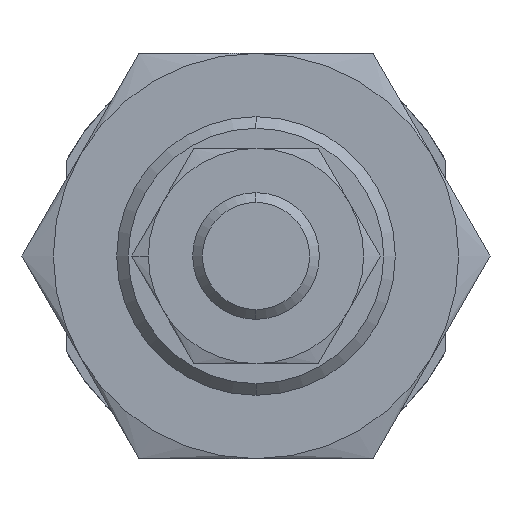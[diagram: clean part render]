
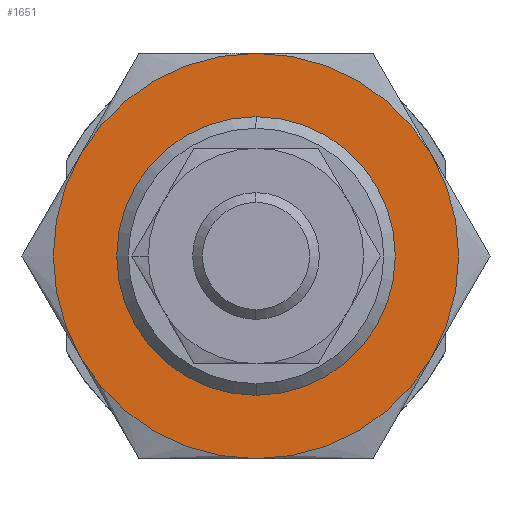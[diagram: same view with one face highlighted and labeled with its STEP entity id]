
A CAD part, left-side view. The second image highlights one B-rep face of the part: STEP entity #1651.
In plain terms, the highlighted planar face has unit normal (-1, 0, 0).
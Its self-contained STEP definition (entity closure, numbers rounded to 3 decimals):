
#25 = VERTEX_POINT ( 'NONE', #2731 ) ;
#41 = CARTESIAN_POINT ( 'NONE',  ( -17.5, -13.856, -8. ) ) ;
#100 = EDGE_CURVE ( 'NONE', #3830, #1023, #3767, .T. ) ;
#113 = DIRECTION ( 'NONE',  ( 1., 0., 0. ) ) ;
#236 = DIRECTION ( 'NONE',  ( 1., 0., 0. ) ) ;
#237 = CIRCLE ( 'NONE', #1338, 11. ) ;
#270 = ORIENTED_EDGE ( 'NONE', *, *, #968, .F. ) ;
#280 = FACE_OUTER_BOUND ( 'NONE', #3653, .T. ) ;
#297 = CARTESIAN_POINT ( 'NONE',  ( -17.5, 0., 0. ) ) ;
#319 = DIRECTION ( 'NONE',  ( 1., 0., 0. ) ) ;
#445 = AXIS2_PLACEMENT_3D ( 'NONE', #2948, #1595, #3613 ) ;
#555 = DIRECTION ( 'NONE',  ( 1., 0., 0. ) ) ;
#678 = AXIS2_PLACEMENT_3D ( 'NONE', #3505, #555, #3186 ) ;
#722 = VERTEX_POINT ( 'NONE', #3531 ) ;
#761 = CARTESIAN_POINT ( 'NONE',  ( -17.5, 0., 0. ) ) ;
#829 = CIRCLE ( 'NONE', #3030, 16. ) ;
#968 = EDGE_CURVE ( 'NONE', #1023, #3799, #1998, .T. ) ;
#1023 = VERTEX_POINT ( 'NONE', #1261 ) ;
#1025 = CARTESIAN_POINT ( 'NONE',  ( -17.5, 13.856, -8. ) ) ;
#1132 = VERTEX_POINT ( 'NONE', #2317 ) ;
#1163 = ORIENTED_EDGE ( 'NONE', *, *, #1285, .F. ) ;
#1201 = CARTESIAN_POINT ( 'NONE',  ( -17.5, 0., 0. ) ) ;
#1203 = DIRECTION ( 'NONE',  ( 0., 0., -1. ) ) ;
#1261 = CARTESIAN_POINT ( 'NONE',  ( -17.5, 0., -16. ) ) ;
#1285 = EDGE_CURVE ( 'NONE', #3799, #1132, #829, .T. ) ;
#1331 = EDGE_CURVE ( 'NONE', #1132, #722, #3237, .T. ) ;
#1338 = AXIS2_PLACEMENT_3D ( 'NONE', #1908, #236, #3804 ) ;
#1446 = CARTESIAN_POINT ( 'NONE',  ( -17.5, 0., 0. ) ) ;
#1470 = EDGE_CURVE ( 'NONE', #3651, #25, #237, .T. ) ;
#1572 = AXIS2_PLACEMENT_3D ( 'NONE', #761, #2086, #3760 ) ;
#1595 = DIRECTION ( 'NONE',  ( -1., 0., 0. ) ) ;
#1651 = ADVANCED_FACE ( 'NONE', ( #280, #3990 ), #1968, .T. ) ;
#1668 = ORIENTED_EDGE ( 'NONE', *, *, #3746, .F. ) ;
#1767 = CARTESIAN_POINT ( 'NONE',  ( -17.5, 0., 0. ) ) ;
#1768 = VERTEX_POINT ( 'NONE', #3659 ) ;
#1784 = EDGE_LOOP ( 'NONE', ( #4229, #4256 ) ) ;
#1815 = DIRECTION ( 'NONE',  ( 1., 0., 0. ) ) ;
#1834 = CIRCLE ( 'NONE', #4240, 16. ) ;
#1900 = CARTESIAN_POINT ( 'NONE',  ( -17.5, 0., 0. ) ) ;
#1908 = CARTESIAN_POINT ( 'NONE',  ( -17.5, 0., 0. ) ) ;
#1913 = AXIS2_PLACEMENT_3D ( 'NONE', #1900, #2889, #1203 ) ;
#1968 = PLANE ( 'NONE',  #445 ) ;
#1989 = CIRCLE ( 'NONE', #1572, 11. ) ;
#1998 = CIRCLE ( 'NONE', #678, 16. ) ;
#2055 = EDGE_CURVE ( 'NONE', #1768, #3830, #2268, .T. ) ;
#2086 = DIRECTION ( 'NONE',  ( 1., 0., 0. ) ) ;
#2091 = CARTESIAN_POINT ( 'NONE',  ( -17.5, 0., -11. ) ) ;
#2268 = CIRCLE ( 'NONE', #2607, 16. ) ;
#2317 = CARTESIAN_POINT ( 'NONE',  ( -17.5, 13.856, 8. ) ) ;
#2402 = ORIENTED_EDGE ( 'NONE', *, *, #100, .F. ) ;
#2607 = AXIS2_PLACEMENT_3D ( 'NONE', #1201, #1815, #3187 ) ;
#2731 = CARTESIAN_POINT ( 'NONE',  ( -17.5, 0., 11. ) ) ;
#2835 = ORIENTED_EDGE ( 'NONE', *, *, #2055, .F. ) ;
#2889 = DIRECTION ( 'NONE',  ( 1., 0., 0. ) ) ;
#2948 = CARTESIAN_POINT ( 'NONE',  ( -17.5, 16., 0. ) ) ;
#3018 = DIRECTION ( 'NONE',  ( 0., 0., -1. ) ) ;
#3030 = AXIS2_PLACEMENT_3D ( 'NONE', #297, #319, #3018 ) ;
#3077 = DIRECTION ( 'NONE',  ( 0., 0., -1. ) ) ;
#3115 = EDGE_CURVE ( 'NONE', #25, #3651, #1989, .T. ) ;
#3186 = DIRECTION ( 'NONE',  ( 0., 0., -1. ) ) ;
#3187 = DIRECTION ( 'NONE',  ( 0., 0., -1. ) ) ;
#3237 = CIRCLE ( 'NONE', #4148, 16. ) ;
#3405 = DIRECTION ( 'NONE',  ( 1., 0., 0. ) ) ;
#3505 = CARTESIAN_POINT ( 'NONE',  ( -17.5, 0., 0. ) ) ;
#3531 = CARTESIAN_POINT ( 'NONE',  ( -17.5, 0., 16. ) ) ;
#3612 = ORIENTED_EDGE ( 'NONE', *, *, #1331, .F. ) ;
#3613 = DIRECTION ( 'NONE',  ( 0., 0., 1. ) ) ;
#3651 = VERTEX_POINT ( 'NONE', #2091 ) ;
#3653 = EDGE_LOOP ( 'NONE', ( #1163, #270, #2402, #2835, #1668, #3612 ) ) ;
#3659 = CARTESIAN_POINT ( 'NONE',  ( -17.5, -13.856, 8. ) ) ;
#3730 = DIRECTION ( 'NONE',  ( 0., 0., -1. ) ) ;
#3746 = EDGE_CURVE ( 'NONE', #722, #1768, #1834, .T. ) ;
#3760 = DIRECTION ( 'NONE',  ( 0., 0., -1. ) ) ;
#3767 = CIRCLE ( 'NONE', #1913, 16. ) ;
#3799 = VERTEX_POINT ( 'NONE', #1025 ) ;
#3804 = DIRECTION ( 'NONE',  ( 0., 0., -1. ) ) ;
#3830 = VERTEX_POINT ( 'NONE', #41 ) ;
#3990 = FACE_BOUND ( 'NONE', #1784, .T. ) ;
#4148 = AXIS2_PLACEMENT_3D ( 'NONE', #1446, #3405, #3730 ) ;
#4229 = ORIENTED_EDGE ( 'NONE', *, *, #3115, .T. ) ;
#4240 = AXIS2_PLACEMENT_3D ( 'NONE', #1767, #113, #3077 ) ;
#4256 = ORIENTED_EDGE ( 'NONE', *, *, #1470, .T. ) ;
